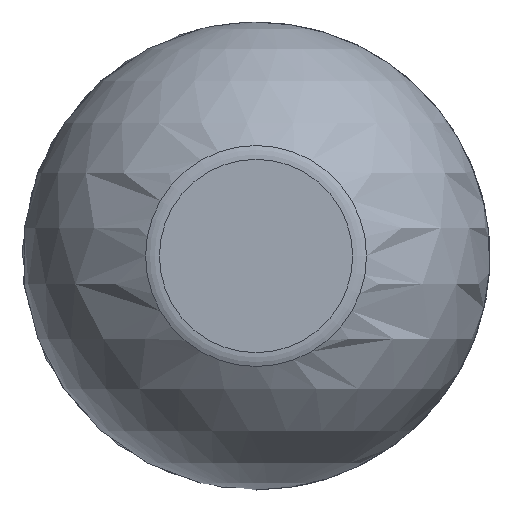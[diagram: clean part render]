
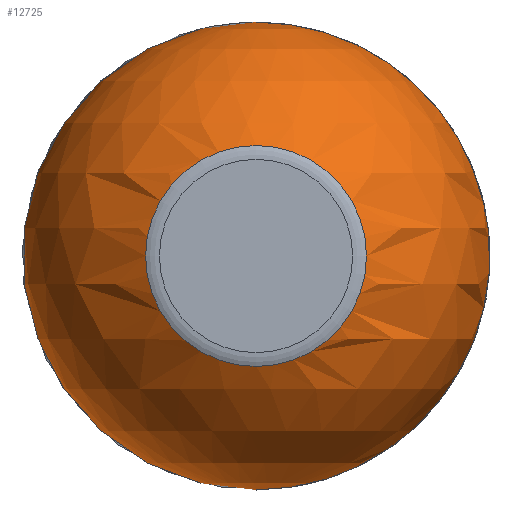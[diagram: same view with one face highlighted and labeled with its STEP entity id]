
A CAD part, left-side view. The second image highlights one B-rep face of the part: STEP entity #12725.
In plain terms, the highlighted spherical face has radius 12.179 mm.
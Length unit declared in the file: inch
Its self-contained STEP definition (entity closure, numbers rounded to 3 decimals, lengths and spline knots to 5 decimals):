
#2996=SPHERICAL_SURFACE('',#13522,0.4795);
#3439=FACE_BOUND('',#4283,.T.);
#3440=FACE_BOUND('',#4284,.T.);
#4283=EDGE_LOOP('',(#8765));
#4284=EDGE_LOOP('',(#8766));
#5113=CIRCLE('',#13514,0.26464);
#5116=CIRCLE('',#13521,0.2265);
#5453=VERTEX_POINT('',#17092);
#5456=VERTEX_POINT('',#17102);
#6779=EDGE_CURVE('',#5453,#5453,#5113,.T.);
#6782=EDGE_CURVE('',#5456,#5456,#5116,.T.);
#8765=ORIENTED_EDGE('',*,*,#6779,.T.);
#8766=ORIENTED_EDGE('',*,*,#6782,.T.);
#12725=ADVANCED_FACE('',(#3439,#3440),#2996,.T.);
#13514=AXIS2_PLACEMENT_3D('',#17093,#14390,#14391);
#13521=AXIS2_PLACEMENT_3D('',#17103,#14404,#14405);
#13522=AXIS2_PLACEMENT_3D('',#17104,#14406,#14407);
#14390=DIRECTION('center_axis',(-1.,0.,0.));
#14391=DIRECTION('ref_axis',(0.,0.,-1.));
#14404=DIRECTION('center_axis',(1.,0.,0.));
#14405=DIRECTION('ref_axis',(0.,0.,-1.));
#14406=DIRECTION('center_axis',(0.,0.,1.));
#14407=DIRECTION('ref_axis',(1.,0.,0.));
#17092=CARTESIAN_POINT('',(-0.46231,0.14868,0.));
#17093=CARTESIAN_POINT('Origin',(-0.46231,0.41332,0.));
#17102=CARTESIAN_POINT('',(-1.2848,0.63982,0.));
#17103=CARTESIAN_POINT('Origin',(-1.2848,0.41332,0.));
#17104=CARTESIAN_POINT('Origin',(-0.86217,0.41332,0.));
